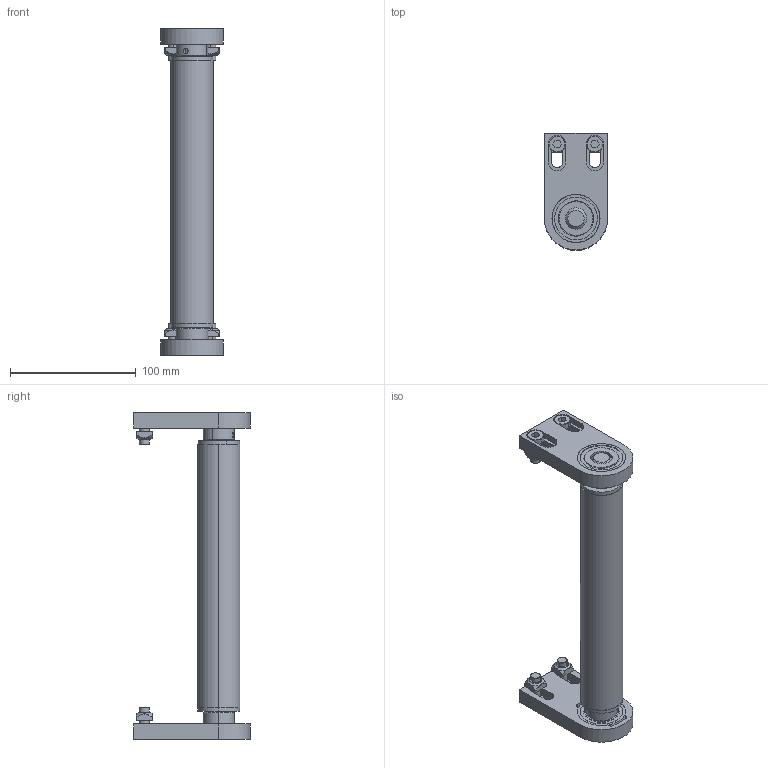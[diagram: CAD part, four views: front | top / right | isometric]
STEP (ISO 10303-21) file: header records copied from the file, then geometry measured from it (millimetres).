
FILE_DESCRIPTION (( 'STEP AP203' ), '1' );
FILE_NAME ('084.095.KSS.200.STEP', '2019-07-30T08:39:08', ( '' ), ( '' ), 'SwSTEP 2.0', 'SolidWorks 2018', '' );
FILE_SCHEMA (( 'CONFIG_CONTROL_DESIGN' ));
Length unit declared in the file: millimetre
Products named in the file (8): 084.802.029-209; 084.302.000 DADI ALUSIC 13x13-1_084.302.004; 084.802.017_084.802.017; 084.802.028; 084.301.000 VITI ALUSIC_084.301.003; 084.802.013-2; 084.095.KSS.200; 084.802.014
Assembly tree (17 placements, depth 2):
  084.095.KSS.200
    084.802.029-209
    084.301.000 VITI ALUSIC_084.301.003  x4
    084.302.000 DADI ALUSIC 13x13-1_084.302.004  x4
    084.802.017_084.802.017  x2
    084.802.028  x2
    084.802.014  x2
    084.802.013-2  x2
Bounding box: 50 x 92.5 x 259 mm (x, y, z)
Volume: 203257.8 mm3; surface area: 115312.8 mm2
Topology: 19 solids, 21 shells, 384 faces, 910 edges, 582 vertices
Faces by surface type: plane 142, cylinder 134, torus 52, cone 32, bspline 16, sphere 8
Entity records: 5980 total; most frequent: CARTESIAN_POINT 1263, DIRECTION 820, ORIENTED_EDGE 700, EDGE_CURVE 350, AXIS2_PLACEMENT_3D 339, VERTEX_POINT 224, EDGE_LOOP 182, CIRCLE 170
